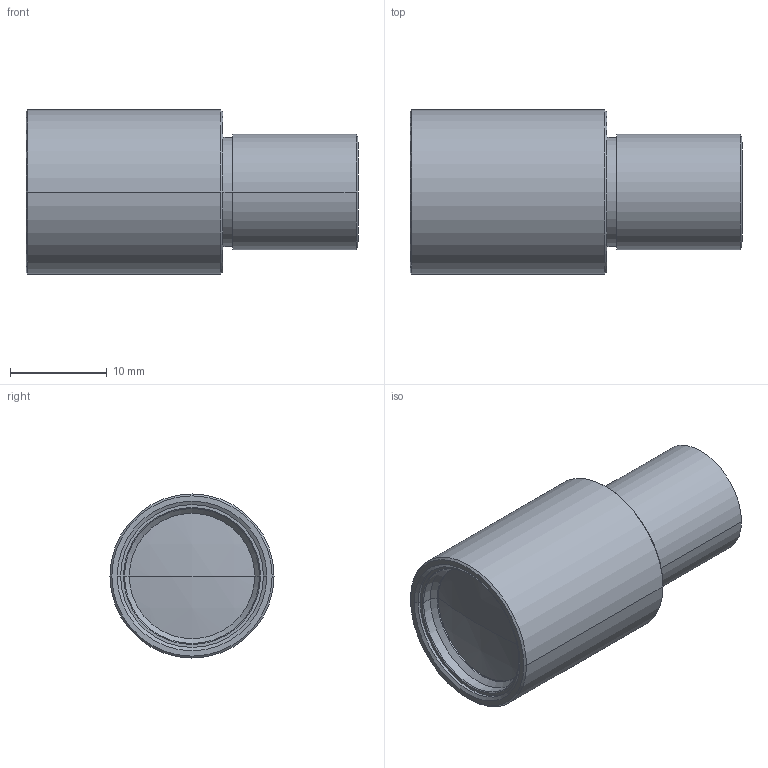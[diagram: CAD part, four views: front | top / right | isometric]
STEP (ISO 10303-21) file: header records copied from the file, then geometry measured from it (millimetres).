
FILE_DESCRIPTION (( 'STEP AP214' ), '1' );
FILE_NAME ('E1220KV.STEP', '2021-04-19T23:40:19', ( '' ), ( '' ), 'SwSTEP 2.0', 'SolidWorks 2021', '' );
FILE_SCHEMA (( 'AUTOMOTIVE_DESIGN' ));
Length unit declared in the file: millimetre
Products named in the file (1): E1220KV
Bounding box: 34.4 x 17 x 17 mm (x, y, z)
Volume: 5195.2 mm3; surface area: 2430.9 mm2
Topology: 1 solids, 1 shells, 55 faces, 108 edges, 62 vertices
Faces by surface type: cone 24, cylinder 20, plane 7, sphere 4
Entity records: 2045 total; most frequent: DIRECTION 284, CARTESIAN_POINT 226, ORIENTED_EDGE 216, AXIS2_PLACEMENT_3D 120, EDGE_CURVE 108, CIRCLE 64, VERTEX_POINT 62, EDGE_LOOP 62
